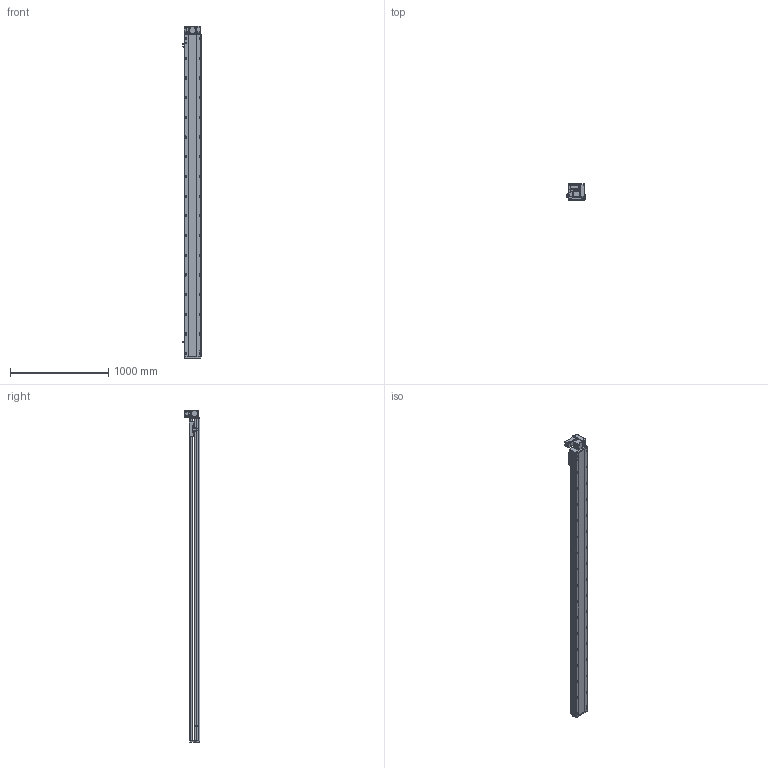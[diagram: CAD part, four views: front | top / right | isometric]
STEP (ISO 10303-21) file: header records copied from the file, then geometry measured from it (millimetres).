
FILE_DESCRIPTION (( 'STEP AP214' ), '1' );
FILE_NAME ('RTB17S-XX-3000-RW-M40-C4.STEP', '2025-12-11T09:17:02', ( '' ), ( '' ), 'SwSTEP 2.0', 'SolidWorks 2018', '' );
FILE_SCHEMA (( 'AUTOMOTIVE_DESIGN' ));
Length unit declared in the file: millimetre
Products named in the file (14): RTB17S-L-007奻裔^RTB17S-XX-XX-RW-M40-C4; RTB17-R-011菁釱^RTB17S-XX-XX-RW-M40-C4; RTB14-L-018P^RTB17S-RW-々湍釱蚾饜-400W_RTB17S-XX-XX-RW-M40-C4; RTB17S-RW-々湍釱蚾饜-400W^RTB17S-XX-XX-RW-M40-C4; RTB14-L-005P--轴承塑胶压盖^RTB17S-RW-皮带座装配-400W_RTB17S-XX-XX-RW-M40-C4; 400W侜督萇儂^RTB17S-XX-XX-RW-M40-C4; RTB14-L-017P^RTB17S-RW-々湍釱蚾饜-400W_RTB17S-XX-XX-RW-M40-C4; RTH13-BL-012覜茼え俋离^RTB17S-XX-XX-RW-M40-C4; RTB17S-XX-3000-RW-M40-C4; RTB14-L-008-M20--萇儂啣^RTB17S-RW-々湍釱蚾饜-400W_RTB17S-XX-XX-RW-M40-C4; RMP17S-L-014-T20--々湍釱^RTB17S-RW-々湍釱蚾饜-400W_RTB17S-XX-XX-RW-M40-C4; OMRON EE-SX672 传感器^RTB17S-XX-XX-RW-M40-C4; RTB17S-L-004佪裝蹟譫蟀諉釱^RTB17S-XX-XX-RW-M40-C4; RTB17S-L-001耜醱啣^RTB17S-XX-XX-RW-M40-C4
Assembly tree (16 placements, depth 3):
  RTB17S-XX-3000-RW-M40-C4
    RTB17-R-011菁釱^RTB17S-XX-XX-RW-M40-C4
    RTB17S-L-007奻裔^RTB17S-XX-XX-RW-M40-C4
    OMRON EE-SX672 传感器^RTB17S-XX-XX-RW-M40-C4  x3
    RTB17S-L-001耜醱啣^RTB17S-XX-XX-RW-M40-C4
    400W侜督萇儂^RTB17S-XX-XX-RW-M40-C4
    RTB17S-L-004佪裝蹟譫蟀諉釱^RTB17S-XX-XX-RW-M40-C4
    RTH13-BL-012覜茼え俋离^RTB17S-XX-XX-RW-M40-C4
    RTB17S-RW-々湍釱蚾饜-400W^RTB17S-XX-XX-RW-M40-C4
      RMP17S-L-014-T20--々湍釱^RTB17S-RW-々湍釱蚾饜-400W_RTB17S-XX-XX-RW-M40-C4
      RTB14-L-005P--轴承塑胶压盖^RTB17S-RW-皮带座装配-400W_RTB17S-XX-XX-RW-M40-C4
      RTB14-L-008-M20--萇儂啣^RTB17S-RW-々湍釱蚾饜-400W_RTB17S-XX-XX-RW-M40-C4
      RTB14-L-017P^RTB17S-RW-々湍釱蚾饜-400W_RTB17S-XX-XX-RW-M40-C4  x2
      RTB14-L-018P^RTB17S-RW-々湍釱蚾饜-400W_RTB17S-XX-XX-RW-M40-C4
Bounding box: 183.5 x 160.5 x 3372.5 mm (x, y, z)
Volume: 28686796 mm3; surface area: 3275748.3 mm2
Topology: 15 solids, 15 shells, 2365 faces, 6627 edges, 4329 vertices
Faces by surface type: plane 1088, cylinder 829, bspline 301, cone 139, torus 8
Entity records: 70313 total; most frequent: CARTESIAN_POINT 20032, ORIENTED_EDGE 10098, DIRECTION 9296, EDGE_CURVE 5049, VERTEX_POINT 3317, AXIS2_PLACEMENT_3D 3247, VECTOR 2802, LINE 2802
